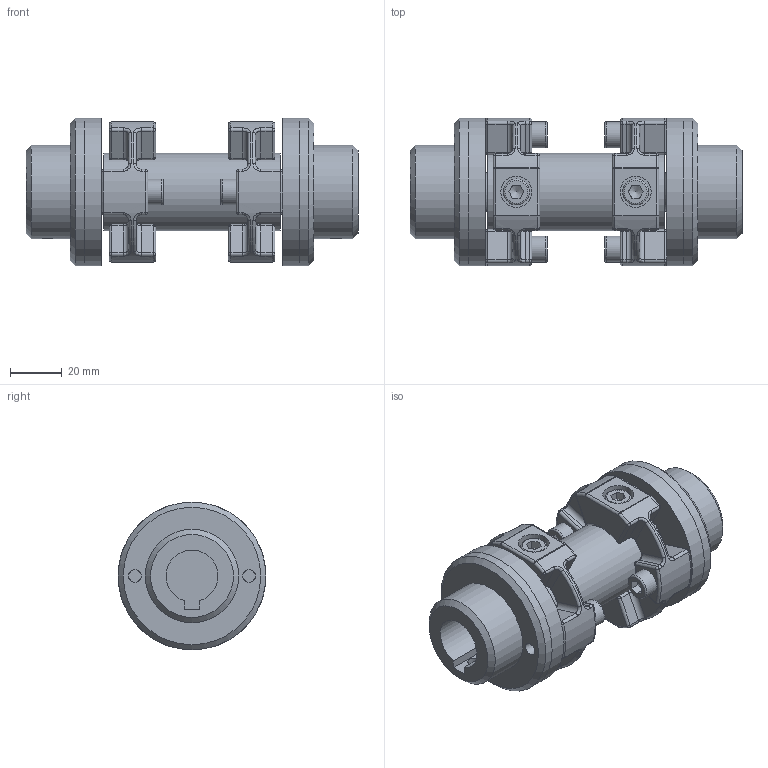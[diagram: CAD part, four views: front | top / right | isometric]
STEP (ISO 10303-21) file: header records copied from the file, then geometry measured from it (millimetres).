
FILE_DESCRIPTION(/* description */ (''),/* implementation_level */ '2;1');
FILE_NAME(/* name */ 'GXZ01-L80-20-PF-20-PF',/* time_stamp */ '2024-01-05T15:35:29+01:00',/* author */ ('M. Horlacher'),/* organization */ (''),/* preprocessor_version */ 'ST-DEVELOPER v20',/* originating_system */ 'Autodesk Inventor 2024',/* authorisation */ '');
FILE_SCHEMA (('AUTOMOTIVE_DESIGN { 1 0 10303 214 3 1 1 }'));
Length unit declared in the file: millimetre
Products named in the file (10): RP STEP; VE Rohr Dummy; GX01 Befestigungssatz ST; 100305-1057s; 080305-1405s; ISO 4762 - M6 x 10 - 8.8 - VZ A1A; ISO 4762 - M6 x 25 - 8.8 - VZ A1A; GX01-Nabe; GX01-Nabe_1; 310715-1009b
Assembly tree (13 placements, depth 3):
  RP STEP
    VE Rohr Dummy
    GX01 Befestigungssatz ST  x2
      100305-1057s
      080305-1405s
      ISO 4762 - M6 x 10 - 8.8 - VZ A1A
      ISO 4762 - M6 x 25 - 8.8 - VZ A1A
    GX01-Nabe
    GX01-Nabe_1
    310715-1009b  x2
Bounding box: 128 x 57 x 57 mm (x, y, z)
Volume: 147138.4 mm3; surface area: 75526.9 mm2
Topology: 17 solids, 17 shells, 642 faces, 1508 edges, 834 vertices
Faces by surface type: cylinder 210, plane 172, torus 92, sphere 80, bspline 66, cone 22
Full cylindrical faces by diameter (mm): 4.917 x10, 6 x16, 6.6 x4, 10 x8, 12 x4, 18 x2, 27 x3, 30 x3, 36 x2, 52 x4, 57 x4
Entity records: 10249 total; most frequent: CARTESIAN_POINT 2963, DIRECTION 1545, ORIENTED_EDGE 1362, EDGE_CURVE 681, AXIS2_PLACEMENT_3D 657, VERTEX_POINT 397, EDGE_LOOP 356, CIRCLE 351
